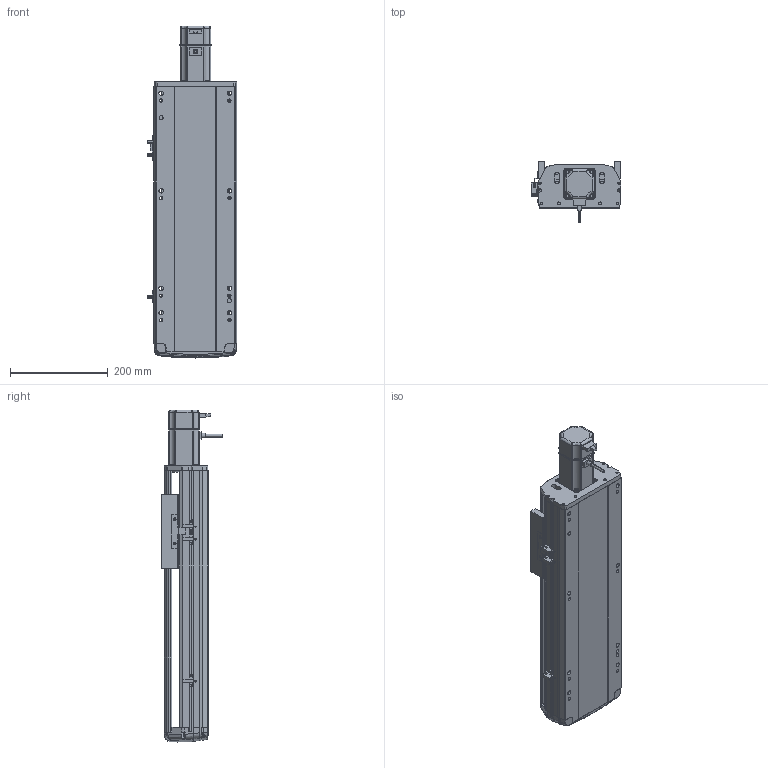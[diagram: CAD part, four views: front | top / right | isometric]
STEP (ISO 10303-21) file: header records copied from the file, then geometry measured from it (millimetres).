
FILE_DESCRIPTION (( 'STEP AP214' ), '1' );
FILE_NAME ('RTH17-XX-300-E-M40-C4（方程式）.STEP', '2025-10-24T05:38:16', ( '' ), ( '' ), 'SwSTEP 2.0', 'SolidWorks 2018', '' );
FILE_SCHEMA (( 'AUTOMOTIVE_DESIGN' ));
Length unit declared in the file: millimetre
Products named in the file (9): RTH17-XX-300-E-M40-C4（方程式）; N_RTH17-GY-001P^RTH17-XX-XX-E-M40-C4（方程式）; N_RTH17-E-004丝杆螺母连接座^RTH17-XX-XX-E-M40-C4（方程式）; N_RTH17-E-008-P40电机板^RTH17-XX-XX-E-M40-C4（方程式）; N_RTH-BL-012 感应片(外置)^RTH17-XX-XX-E-M40-C4（方程式）; N_RTH17-E-011底座^RTH17-XX-XX-E-M40-C4（方程式）; N_RTH17-E-007上盖^RTH17-XX-XX-E-M40-C4（方程式）; N_M40^RTH17-XX-XX-E-M40-C4（方程式）; N_OMRON EE-SX672 換覜ん^RTH17-XX-XX-E-M40-C4ㄗ源最宒ㄘ
Assembly tree (10 placements, depth 2):
  RTH17-XX-300-E-M40-C4（方程式）
    N_RTH17-E-011底座^RTH17-XX-XX-E-M40-C4（方程式）
    N_RTH17-E-007上盖^RTH17-XX-XX-E-M40-C4（方程式）
    N_RTH17-E-008-P40电机板^RTH17-XX-XX-E-M40-C4（方程式）
    N_OMRON EE-SX672 換覜ん^RTH17-XX-XX-E-M40-C4ㄗ源最宒ㄘ  x3
    N_RTH-BL-012 感应片(外置)^RTH17-XX-XX-E-M40-C4（方程式）
    N_RTH17-E-004丝杆螺母连接座^RTH17-XX-XX-E-M40-C4（方程式）
    N_RTH17-GY-001P^RTH17-XX-XX-E-M40-C4（方程式）
    N_M40^RTH17-XX-XX-E-M40-C4（方程式）
Bounding box: 183.5 x 127 x 680.77 mm (x, y, z)
Volume: 4990103.6 mm3; surface area: 705776 mm2
Topology: 9 solids, 11 shells, 1649 faces, 4603 edges, 3002 vertices
Faces by surface type: plane 825, cylinder 457, bspline 330, cone 28, torus 9
Entity records: 48029 total; most frequent: CARTESIAN_POINT 19270, ORIENTED_EDGE 6230, DIRECTION 5175, EDGE_CURVE 3119, VERTEX_POINT 2038, LINE 1759, VECTOR 1759, AXIS2_PLACEMENT_3D 1708
